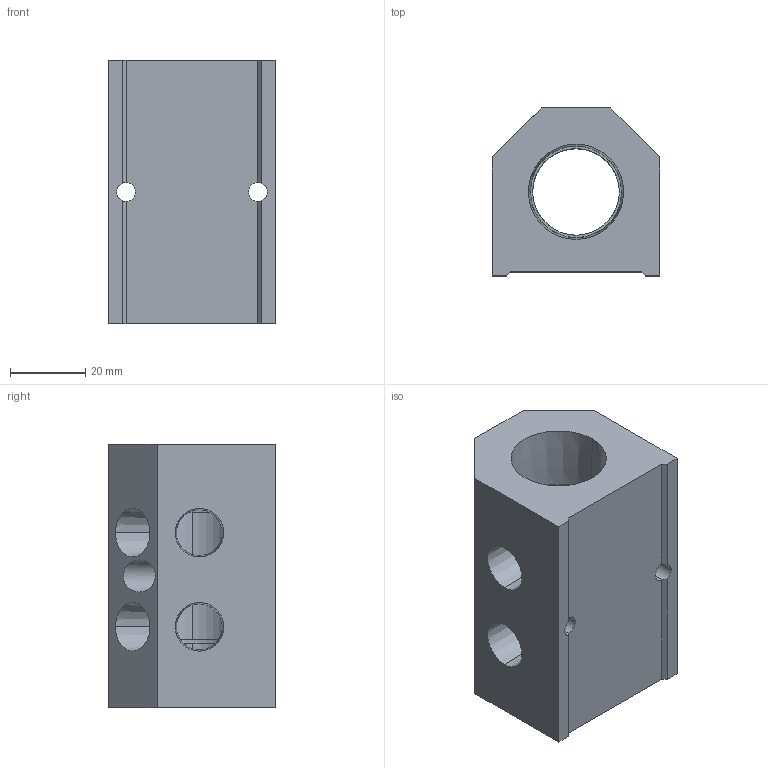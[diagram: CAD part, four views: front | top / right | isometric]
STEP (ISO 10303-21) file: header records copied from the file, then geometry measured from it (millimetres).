
FILE_DESCRIPTION (( 'STEP AP214' ), '1' );
FILE_NAME ('ALM2AB-N4N12-70R.step', '2022-02-06T14:05:54', ( '' ), ( '' ), 'SwSTEP 2.0', 'SolidWorks 2020', '' );
FILE_SCHEMA (( 'AUTOMOTIVE_DESIGN' ));
Length unit declared in the file: millimetre
Products named in the file (1): ALM2AB-N4N12-70R
Bounding box: 44.5 x 44.5 x 70 mm (x, y, z)
Volume: 85582.5 mm3; surface area: 21230.4 mm2
Topology: 1 solids, 1 shells, 279 faces, 747 edges, 496 vertices
Faces by surface type: plane 204, bspline 42, cone 17, cylinder 16
Entity records: 14500 total; most frequent: CARTESIAN_POINT 5265, ORIENTED_EDGE 1494, DIRECTION 1133, EDGE_CURVE 747, LINE 569, VECTOR 569, VERTEX_POINT 496, EDGE_LOOP 319
